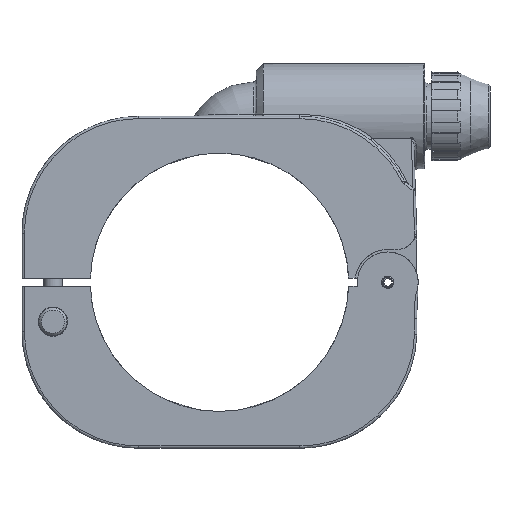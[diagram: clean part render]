
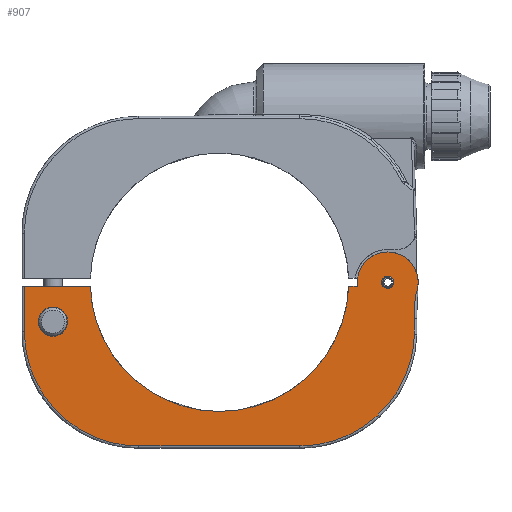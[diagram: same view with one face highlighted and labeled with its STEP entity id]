
A CAD part, left-side view. The second image highlights one B-rep face of the part: STEP entity #907.
In plain terms, the highlighted planar face has unit normal (-1, 0, -0.018).
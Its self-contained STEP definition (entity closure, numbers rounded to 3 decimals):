
#907 = ADVANCED_FACE( '', ( #1865, #1866, #1867 ), #1868, .T. );
#1865 = FACE_BOUND( '', #6968, .T. );
#1866 = FACE_OUTER_BOUND( '', #6969, .T. );
#1867 = FACE_BOUND( '', #6970, .T. );
#1868 = PLANE( '', #6971 );
#6968 = EDGE_LOOP( '', ( #9738 ) );
#6969 = EDGE_LOOP( '', ( #9739, #9740, #9741, #9742, #9743, #9744, #9745, #9746, #9747, #9748, #9749, #9750 ) );
#6970 = EDGE_LOOP( '', ( #9751 ) );
#6971 = AXIS2_PLACEMENT_3D( '', #9752, #9753, #9754 );
#9738 = ORIENTED_EDGE( '', *, *, #10634, .T. );
#9739 = ORIENTED_EDGE( '', *, *, #10794, .T. );
#9740 = ORIENTED_EDGE( '', *, *, #10902, .F. );
#9741 = ORIENTED_EDGE( '', *, *, #10186, .F. );
#9742 = ORIENTED_EDGE( '', *, *, #10636, .T. );
#9743 = ORIENTED_EDGE( '', *, *, #10015, .T. );
#9744 = ORIENTED_EDGE( '', *, *, #10805, .T. );
#9745 = ORIENTED_EDGE( '', *, *, #10759, .T. );
#9746 = ORIENTED_EDGE( '', *, *, #10334, .T. );
#9747 = ORIENTED_EDGE( '', *, *, #10658, .T. );
#9748 = ORIENTED_EDGE( '', *, *, #10615, .T. );
#9749 = ORIENTED_EDGE( '', *, *, #10903, .T. );
#9750 = ORIENTED_EDGE( '', *, *, #10476, .T. );
#9751 = ORIENTED_EDGE( '', *, *, #10496, .T. );
#9752 = CARTESIAN_POINT( '', ( -31.5, 0., 71. ) );
#9753 = DIRECTION( '', ( -1., 0., -0.017 ) );
#9754 = DIRECTION( '', ( -0.017, 0., 1. ) );
#10015 = EDGE_CURVE( '', #11020, #11021, #11022, .T. );
#10186 = EDGE_CURVE( '', #11316, #11319, #11320, .T. );
#10334 = EDGE_CURVE( '', #11561, #11563, #11565, .T. );
#10476 = EDGE_CURVE( '', #11780, #11778, #11781, .T. );
#10496 = EDGE_CURVE( '', #11812, #11812, #11813, .F. );
#10615 = EDGE_CURVE( '', #11971, #11973, #11975, .T. );
#10634 = EDGE_CURVE( '', #12002, #12002, #12003, .F. );
#10636 = EDGE_CURVE( '', #11316, #11020, #12005, .F. );
#10658 = EDGE_CURVE( '', #11563, #11971, #12035, .T. );
#10759 = EDGE_CURVE( '', #12165, #11561, #12166, .T. );
#10794 = EDGE_CURVE( '', #11778, #12206, #12209, .T. );
#10805 = EDGE_CURVE( '', #11021, #12165, #12221, .F. );
#10902 = EDGE_CURVE( '', #11319, #12206, #12329, .F. );
#10903 = EDGE_CURVE( '', #11973, #11780, #12330, .T. );
#11020 = VERTEX_POINT( '', #12657 );
#11021 = VERTEX_POINT( '', #12658 );
#11022 = LINE( '', #12659, #12660 );
#11316 = VERTEX_POINT( '', #13946 );
#11319 = VERTEX_POINT( '', #13950 );
#11320 = LINE( '', #13951, #13952 );
#11561 = VERTEX_POINT( '', #14767 );
#11563 = VERTEX_POINT( '', #14769 );
#11565 = LINE( '', #14771, #14772 );
#11778 = VERTEX_POINT( '', #15570 );
#11780 = VERTEX_POINT( '', #15572 );
#11781 = LINE( '', #15573, #15574 );
#11812 = VERTEX_POINT( '', #15748 );
#11813 = ELLIPSE( '', #15749, 6.251, 6.25 );
#11971 = VERTEX_POINT( '', #16069 );
#11973 = VERTEX_POINT( '', #16071 );
#11975 = LINE( '', #16073, #16074 );
#12002 = VERTEX_POINT( '', #16124 );
#12003 = ELLIPSE( '', #16125, 2.65, 2.65 );
#12005 = ( BOUNDED_CURVE(  )B_SPLINE_CURVE( 3, ( #16129, #16130, #16131, #16132 ), .UNSPECIFIED., .F., .F. )B_SPLINE_CURVE_WITH_KNOTS( ( 4, 4 ), ( 0.677, 0.677 ), .UNSPECIFIED. )CURVE(  )GEOMETRIC_REPRESENTATION_ITEM(  )RATIONAL_B_SPLINE_CURVE( ( 0.631, 0.631, 0.631, 0.631 ) )REPRESENTATION_ITEM( '' ) );
#12035 = ELLIPSE( '', #16252, 49.007, 49. );
#12165 = VERTEX_POINT( '', #16597 );
#12166 = LINE( '', #16598, #16599 );
#12206 = VERTEX_POINT( '', #16762 );
#12209 = LINE( '', #16780, #16781 );
#12221 = ELLIPSE( '', #16804, 55.258, 55.25 );
#12329 = ELLIPSE( '', #17000, 13.002, 13. );
#12330 = ELLIPSE( '', #17001, 49.007, 49. );
#12657 = CARTESIAN_POINT( '', ( -31.469, -57.584, 69.243 ) );
#12658 = CARTESIAN_POINT( '', ( -31.469, -55.222, 69.243 ) );
#12659 = CARTESIAN_POINT( '', ( -31.469, -84.385, 69.243 ) );
#12660 = VECTOR( '', #17093, 1000. );
#13946 = CARTESIAN_POINT( '', ( -31.469, -57.584, 69.243 ) );
#13950 = CARTESIAN_POINT( '', ( -31.469, -59.133, 69.243 ) );
#13951 = CARTESIAN_POINT( '', ( -31.469, -58.969, 69.243 ) );
#13952 = VECTOR( '', #17292, 1000. );
#14767 = CARTESIAN_POINT( '', ( -31.469, 83.478, 69.243 ) );
#14769 = CARTESIAN_POINT( '', ( -31.133, 83.478, 49.983 ) );
#14771 = CARTESIAN_POINT( '', ( -31.133, 83.478, 50. ) );
#14772 = VECTOR( '', #17467, 1000. );
#15570 = CARTESIAN_POINT( '', ( -31.228, -83.385, 55.433 ) );
#15572 = CARTESIAN_POINT( '', ( -31.113, -83.385, 48.836 ) );
#15573 = CARTESIAN_POINT( '', ( -31.228, -83.385, 55.432 ) );
#15574 = VECTOR( '', #17662, 1000. );
#15748 = CARTESIAN_POINT( '', ( -31.097, 71.228, 47.929 ) );
#15749 = AXIS2_PLACEMENT_3D( '', #17678, #17679, #17680 );
#16069 = CARTESIAN_POINT( '', ( -30.278, 34.478, 0.983 ) );
#16071 = CARTESIAN_POINT( '', ( -30.278, -34.399, 0.983 ) );
#16073 = CARTESIAN_POINT( '', ( -30.278, -34.399, 0.983 ) );
#16074 = VECTOR( '', #17841, 1000. );
#16124 = CARTESIAN_POINT( '', ( -31.546, -72.017, 73.624 ) );
#16125 = AXIS2_PLACEMENT_3D( '', #17866, #17867, #17868 );
#16129 = CARTESIAN_POINT( '', ( -31.469, -57.584, 69.243 ) );
#16130 = CARTESIAN_POINT( '', ( -31.469, -57.584, 69.243 ) );
#16131 = CARTESIAN_POINT( '', ( -31.469, -57.584, 69.243 ) );
#16132 = CARTESIAN_POINT( '', ( -31.469, -57.584, 69.243 ) );
#16252 = AXIS2_PLACEMENT_3D( '', #17894, #17895, #17896 );
#16597 = CARTESIAN_POINT( '', ( -31.469, 55.222, 69.243 ) );
#16598 = CARTESIAN_POINT( '', ( -31.469, 44.743, 69.243 ) );
#16599 = VECTOR( '', #18012, 1000. );
#16762 = CARTESIAN_POINT( '', ( -31.402, -83.757, 65.392 ) );
#16780 = CARTESIAN_POINT( '', ( -31.47, -83.902, 69.28 ) );
#16781 = VECTOR( '', #18044, 1000. );
#16804 = AXIS2_PLACEMENT_3D( '', #18052, #18053, #18054 );
#17000 = AXIS2_PLACEMENT_3D( '', #18127, #18128, #18129 );
#17001 = AXIS2_PLACEMENT_3D( '', #18130, #18131, #18132 );
#17093 = DIRECTION( '', ( 0., 1., 0. ) );
#17292 = DIRECTION( '', ( 0., -1., 0. ) );
#17467 = DIRECTION( '', ( 0.017, 0., -1. ) );
#17662 = DIRECTION( '', ( -0.017, 0., 1. ) );
#17678 = CARTESIAN_POINT( '', ( -31.206, 71.228, 54.179 ) );
#17679 = DIRECTION( '', ( -1., 0., -0.017 ) );
#17680 = DIRECTION( '', ( 0.017, 0., -1. ) );
#17841 = DIRECTION( '', ( 0., -1., 0. ) );
#17866 = CARTESIAN_POINT( '', ( -31.5, -72.017, 70.974 ) );
#17867 = DIRECTION( '', ( -1., 0., -0.017 ) );
#17868 = DIRECTION( '', ( -0.017, 0., 1. ) );
#17894 = CARTESIAN_POINT( '', ( -31.133, 34.478, 49.983 ) );
#17895 = DIRECTION( '', ( -1., 0., -0.017 ) );
#17896 = DIRECTION( '', ( -0.017, 0., 1. ) );
#18012 = DIRECTION( '', ( 0., 1., 0. ) );
#18044 = DIRECTION( '', ( -0.017, -0.037, 0.999 ) );
#18052 = CARTESIAN_POINT( '', ( -31.5, 0., 71. ) );
#18053 = DIRECTION( '', ( -1., 0., -0.017 ) );
#18054 = DIRECTION( '', ( -0.017, 0., 1. ) );
#18127 = CARTESIAN_POINT( '', ( -31.5, -72.017, 70.974 ) );
#18128 = DIRECTION( '', ( -1., 0., -0.017 ) );
#18129 = DIRECTION( '', ( 0.017, 0., -1. ) );
#18130 = CARTESIAN_POINT( '', ( -31.133, -34.399, 49.983 ) );
#18131 = DIRECTION( '', ( -1., 0., -0.017 ) );
#18132 = DIRECTION( '', ( -0.017, 0., 1. ) );
